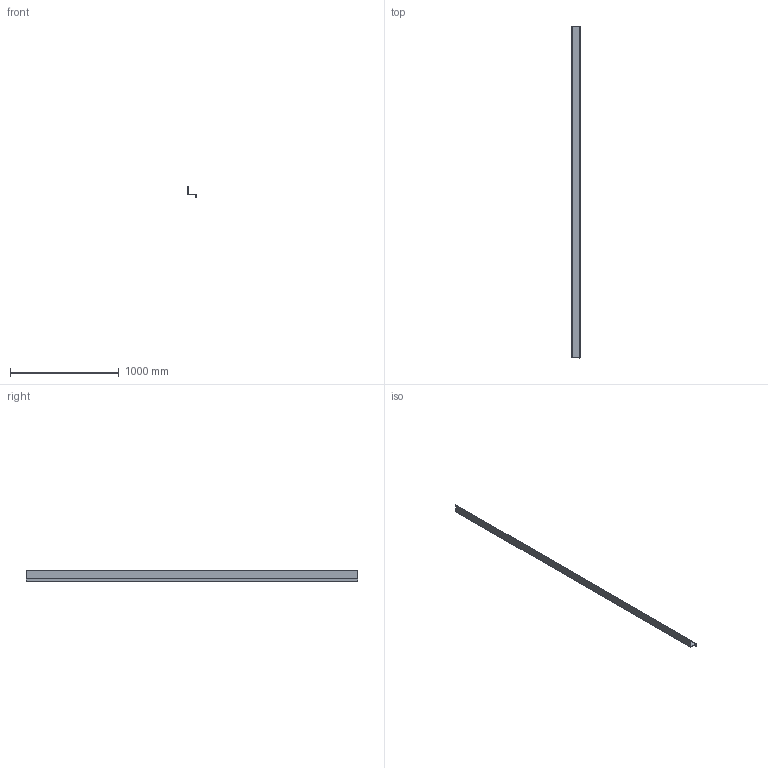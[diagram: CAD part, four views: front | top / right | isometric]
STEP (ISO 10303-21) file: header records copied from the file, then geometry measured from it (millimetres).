
FILE_DESCRIPTION(/* description */ (''),/* implementation_level */ '2;1');
FILE_NAME(/* name */ 'C:\Users\Utilisateur\Mac Metal\Site de communication - Documents\Ingénierie\Développement de produits\Board and Batten\Dessins\Moulures\M54H\M54H.stp',/* time_stamp */ '2022-06-29T17:05:11-04:00',/* author */ ('Utilisateur'),/* organization */ (''),/* preprocessor_version */ 'ST-DEVELOPER v18.1',/* originating_system */ 'Autodesk Inventor 2021',/* authorisation */ '');
FILE_SCHEMA (('AUTOMOTIVE_DESIGN { 1 0 10303 214 3 1 1 }'));
Length unit declared in the file: inch
Products named in the file (1): Solin double à angle droit
Bounding box: 73.64 x 3048 x 106.96 mm (x, y, z)
Volume: 523231 mm3; surface area: 1705799.9 mm2
Topology: 1 solids, 1 shells, 22 faces, 60 edges, 40 vertices
Faces by surface type: plane 14, cylinder 8
Entity records: 743 total; most frequent: CARTESIAN_POINT 123, DIRECTION 122, ORIENTED_EDGE 120, EDGE_CURVE 60, LINE 44, VECTOR 44, VERTEX_POINT 40, AXIS2_PLACEMENT_3D 39
